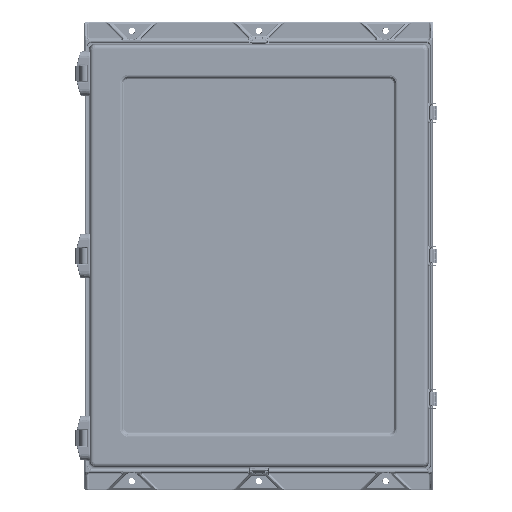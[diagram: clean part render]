
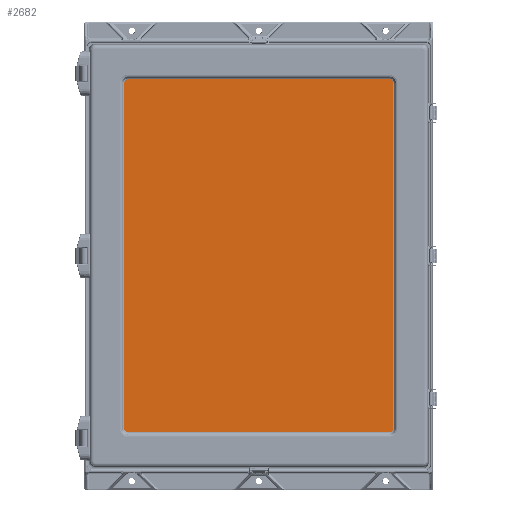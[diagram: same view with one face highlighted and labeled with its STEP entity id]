
A CAD part, top view. The second image highlights one B-rep face of the part: STEP entity #2682.
In plain terms, the highlighted planar face has unit normal (0, 0, 1).
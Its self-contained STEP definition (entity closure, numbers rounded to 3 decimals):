
#2682 = ADVANCED_FACE ( 'NONE', ( #9506 ), #45556, .T. ) ;
#8369 = VERTEX_POINT ( 'NONE', #27398 ) ;
#8370 = VERTEX_POINT ( 'NONE', #27400 ) ;
#8371 = VERTEX_POINT ( 'NONE', #27402 ) ;
#8372 = VERTEX_POINT ( 'NONE', #27404 ) ;
#8373 = VERTEX_POINT ( 'NONE', #27406 ) ;
#8374 = VERTEX_POINT ( 'NONE', #27408 ) ;
#8375 = VERTEX_POINT ( 'NONE', #27410 ) ;
#8376 = VERTEX_POINT ( 'NONE', #27412 ) ;
#9506 = FACE_OUTER_BOUND ( 'NONE', #122388, .T. ) ;
#27398 = CARTESIAN_POINT ( 'NONE',  ( 9.539, -12.269, 1. ) ) ;
#27400 = CARTESIAN_POINT ( 'NONE',  ( 9.539, 12.269, 1. ) ) ;
#27402 = CARTESIAN_POINT ( 'NONE',  ( 9.284, 12.524, 1. ) ) ;
#27404 = CARTESIAN_POINT ( 'NONE',  ( -9.284, 12.524, 1. ) ) ;
#27406 = CARTESIAN_POINT ( 'NONE',  ( -9.539, 12.269, 1. ) ) ;
#27408 = CARTESIAN_POINT ( 'NONE',  ( -9.539, -12.269, 1. ) ) ;
#27410 = CARTESIAN_POINT ( 'NONE',  ( -9.284, -12.524, 1. ) ) ;
#27412 = CARTESIAN_POINT ( 'NONE',  ( 9.284, -12.524, 1. ) ) ;
#29370 = AXIS2_PLACEMENT_3D ( 'NONE', #45557, #45567, #45569 ) ;
#45556 = PLANE ( 'NONE',  #29370 ) ;
#45557 = CARTESIAN_POINT ( 'NONE',  ( -9.662, -12.647, 1. ) ) ;
#45567 = DIRECTION ( 'NONE',  ( 0., 0., 1. ) ) ;
#45569 = DIRECTION ( 'NONE',  ( 1., 0., 0. ) ) ;
#67697 =( BOUNDED_CURVE ( )  B_SPLINE_CURVE ( 3, ( #88862, #88879, #88881, #88884 ),
 .UNSPECIFIED., .F., .T. ) 
 B_SPLINE_CURVE_WITH_KNOTS ( ( 4, 4 ),
 ( 2.357, 3.926 ),
 .UNSPECIFIED. ) 
 CURVE ( )  GEOMETRIC_REPRESENTATION_ITEM ( )  RATIONAL_B_SPLINE_CURVE ( ( 1., 0.805, 0.805, 1. ) ) 
 REPRESENTATION_ITEM ( '' )  );
#67700 =( BOUNDED_CURVE ( )  B_SPLINE_CURVE ( 3, ( #88902, #88928, #88930, #88932 ),
 .UNSPECIFIED., .F., .T. ) 
 B_SPLINE_CURVE_WITH_KNOTS ( ( 4, 4 ),
 ( 2.357, 3.926 ),
 .UNSPECIFIED. ) 
 CURVE ( )  GEOMETRIC_REPRESENTATION_ITEM ( )  RATIONAL_B_SPLINE_CURVE ( ( 1., 0.805, 0.805, 1. ) ) 
 REPRESENTATION_ITEM ( '' )  );
#67701 =( BOUNDED_CURVE ( )  B_SPLINE_CURVE ( 3, ( #88926, #88943, #88945, #88947 ),
 .UNSPECIFIED., .F., .T. ) 
 B_SPLINE_CURVE_WITH_KNOTS ( ( 4, 4 ),
 ( 2.357, 3.926 ),
 .UNSPECIFIED. ) 
 CURVE ( )  GEOMETRIC_REPRESENTATION_ITEM ( )  RATIONAL_B_SPLINE_CURVE ( ( 1., 0.805, 0.805, 1. ) ) 
 REPRESENTATION_ITEM ( '' )  );
#67702 =( BOUNDED_CURVE ( )  B_SPLINE_CURVE ( 3, ( #88941, #88958, #88959, #88961 ),
 .UNSPECIFIED., .F., .T. ) 
 B_SPLINE_CURVE_WITH_KNOTS ( ( 4, 4 ),
 ( 2.357, 3.926 ),
 .UNSPECIFIED. ) 
 CURVE ( )  GEOMETRIC_REPRESENTATION_ITEM ( )  RATIONAL_B_SPLINE_CURVE ( ( 1., 0.805, 0.805, 1. ) ) 
 REPRESENTATION_ITEM ( '' )  );
#80944 = LINE ( 'NONE', #88938, #80953 ) ;
#80947 = LINE ( 'NONE', #88951, #80954 ) ;
#80948 = LINE ( 'NONE', #88916, #80949 ) ;
#80949 = VECTOR ( 'NONE', #88919, 39.37 ) ;
#80950 = LINE ( 'NONE', #88921, #80951 ) ;
#80951 = VECTOR ( 'NONE', #88924, 39.37 ) ;
#80953 = VECTOR ( 'NONE', #88940, 39.37 ) ;
#80954 = VECTOR ( 'NONE', #88953, 39.37 ) ;
#88862 = CARTESIAN_POINT ( 'NONE',  ( -9.539, -12.269, 1. ) ) ;
#88879 = CARTESIAN_POINT ( 'NONE',  ( -9.539, -12.418, 1. ) ) ;
#88881 = CARTESIAN_POINT ( 'NONE',  ( -9.433, -12.524, 1. ) ) ;
#88884 = CARTESIAN_POINT ( 'NONE',  ( -9.284, -12.524, 1. ) ) ;
#88902 = CARTESIAN_POINT ( 'NONE',  ( 9.539, 12.269, 1. ) ) ;
#88916 = CARTESIAN_POINT ( 'NONE',  ( -9.539, -12.647, 1. ) ) ;
#88919 = DIRECTION ( 'NONE',  ( 0., -1., 0. ) ) ;
#88921 = CARTESIAN_POINT ( 'NONE',  ( -9.662, 12.524, 1. ) ) ;
#88924 = DIRECTION ( 'NONE',  ( -1., 0., 0. ) ) ;
#88926 = CARTESIAN_POINT ( 'NONE',  ( -9.284, 12.524, 1. ) ) ;
#88928 = CARTESIAN_POINT ( 'NONE',  ( 9.539, 12.418, 1. ) ) ;
#88930 = CARTESIAN_POINT ( 'NONE',  ( 9.433, 12.524, 1. ) ) ;
#88932 = CARTESIAN_POINT ( 'NONE',  ( 9.284, 12.524, 1. ) ) ;
#88938 = CARTESIAN_POINT ( 'NONE',  ( 9.539, -12.647, 1. ) ) ;
#88940 = DIRECTION ( 'NONE',  ( 0., 1., 0. ) ) ;
#88941 = CARTESIAN_POINT ( 'NONE',  ( 9.284, -12.524, 1. ) ) ;
#88943 = CARTESIAN_POINT ( 'NONE',  ( -9.433, 12.524, 1. ) ) ;
#88945 = CARTESIAN_POINT ( 'NONE',  ( -9.539, 12.418, 1. ) ) ;
#88947 = CARTESIAN_POINT ( 'NONE',  ( -9.539, 12.269, 1. ) ) ;
#88951 = CARTESIAN_POINT ( 'NONE',  ( -9.662, -12.524, 1. ) ) ;
#88953 = DIRECTION ( 'NONE',  ( 1., 0., 0. ) ) ;
#88958 = CARTESIAN_POINT ( 'NONE',  ( 9.433, -12.524, 1. ) ) ;
#88959 = CARTESIAN_POINT ( 'NONE',  ( 9.539, -12.418, 1. ) ) ;
#88961 = CARTESIAN_POINT ( 'NONE',  ( 9.539, -12.269, 1. ) ) ;
#101068 = ORIENTED_EDGE ( 'NONE', *, *, #123912, .T. ) ;
#101069 = ORIENTED_EDGE ( 'NONE', *, *, #123910, .T. ) ;
#101070 = ORIENTED_EDGE ( 'NONE', *, *, #123908, .T. ) ;
#101071 = ORIENTED_EDGE ( 'NONE', *, *, #123914, .T. ) ;
#101072 = ORIENTED_EDGE ( 'NONE', *, *, #123906, .T. ) ;
#101073 = ORIENTED_EDGE ( 'NONE', *, *, #123900, .T. ) ;
#101074 = ORIENTED_EDGE ( 'NONE', *, *, #123916, .T. ) ;
#101075 = ORIENTED_EDGE ( 'NONE', *, *, #123918, .T. ) ;
#122388 = EDGE_LOOP ( 'NONE', ( #101068, #101069, #101070, #101071, #101072, #101073, #101074, #101075 ) ) ;
#123900 = EDGE_CURVE ( 'NONE', #8374, #8375, #67697, .T. ) ;
#123906 = EDGE_CURVE ( 'NONE', #8373, #8374, #80948, .T. ) ;
#123908 = EDGE_CURVE ( 'NONE', #8371, #8372, #80950, .T. ) ;
#123910 = EDGE_CURVE ( 'NONE', #8370, #8371, #67700, .T. ) ;
#123912 = EDGE_CURVE ( 'NONE', #8369, #8370, #80944, .T. ) ;
#123914 = EDGE_CURVE ( 'NONE', #8372, #8373, #67701, .T. ) ;
#123916 = EDGE_CURVE ( 'NONE', #8375, #8376, #80947, .T. ) ;
#123918 = EDGE_CURVE ( 'NONE', #8376, #8369, #67702, .T. ) ;
